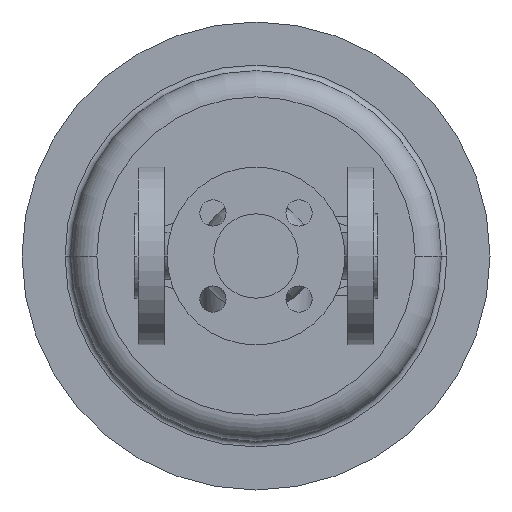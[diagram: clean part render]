
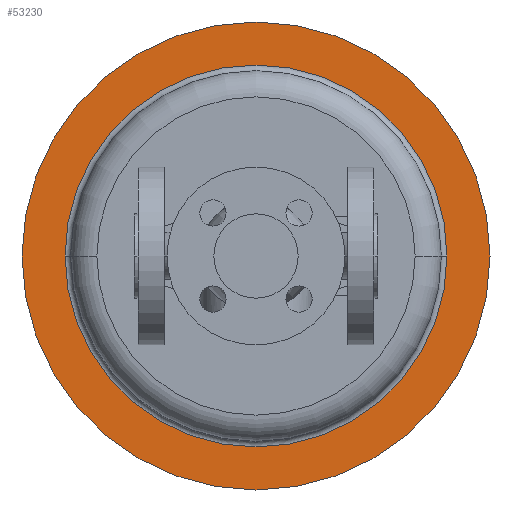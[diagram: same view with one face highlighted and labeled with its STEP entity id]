
A CAD part, front view. The second image highlights one B-rep face of the part: STEP entity #53230.
In plain terms, the highlighted planar face has unit normal (0, -1, 0).
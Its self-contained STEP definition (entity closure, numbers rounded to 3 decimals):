
#39350=CARTESIAN_POINT('',(-60.,383.,0.));
#39360=VERTEX_POINT('',#39350);
#39520=CARTESIAN_POINT('',(190.,383.,0.));
#39530=VERTEX_POINT('',#39520);
#39560=CARTESIAN_POINT('',(65.,383.,0.));
#39570=DIRECTION('',(0.,1.,0.));
#39580=DIRECTION('',(1.,0.,0.));
#39590=AXIS2_PLACEMENT_3D('',#39560,#39570,#39580);
#39600=CIRCLE('',#39590,125.);
#39610=EDGE_CURVE('',#39360,#39530,#39600,.T.);
#39710=CARTESIAN_POINT('',(65.,383.,0.));
#39720=DIRECTION('',(0.,1.,0.));
#39730=DIRECTION('',(1.,0.,0.));
#39740=AXIS2_PLACEMENT_3D('',#39710,#39720,#39730);
#39750=CIRCLE('',#39740,102.);
#39760=CARTESIAN_POINT('',(65.,383.,-102.));
#39770=VERTEX_POINT('',#39760);
#39780=CARTESIAN_POINT('',(-37.,383.,0.));
#39790=VERTEX_POINT('',#39780);
#39800=EDGE_CURVE('',#39770,#39790,#39750,.T.);
#40050=CARTESIAN_POINT('',(167.,383.,0.));
#40060=VERTEX_POINT('',#40050);
#40090=EDGE_CURVE('',#40060,#39770,#39750,.T.);
#53070=CARTESIAN_POINT('',(178.5,383.,0.));
#53080=DIRECTION('',(0.,-1.,0.));
#53090=DIRECTION('',(-1.,0.,0.));
#53100=AXIS2_PLACEMENT_3D('',#53070,#53080,#53090);
#53110=PLANE('',#53100);
#53120=EDGE_CURVE('',#39530,#39360,#39600,.T.);
#53130=ORIENTED_EDGE('',*,*,#53120,.F.);
#53140=ORIENTED_EDGE('',*,*,#39610,.F.);
#53150=EDGE_LOOP('',(#53140,#53130));
#53160=FACE_OUTER_BOUND('',#53150,.T.);
#53170=EDGE_CURVE('',#39790,#40060,#39750,.T.);
#53180=ORIENTED_EDGE('',*,*,#53170,.T.);
#53190=ORIENTED_EDGE('',*,*,#39800,.T.);
#53200=ORIENTED_EDGE('',*,*,#40090,.T.);
#53210=EDGE_LOOP('',(#53200,#53190,#53180));
#53220=FACE_BOUND('',#53210,.T.);
#53230=ADVANCED_FACE('',(#53160,#53220),#53110,.T.);
